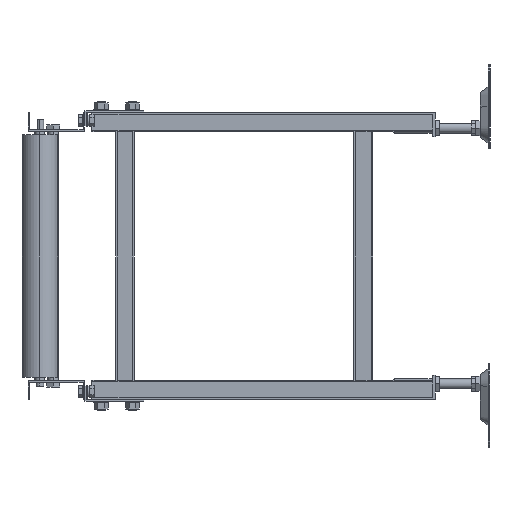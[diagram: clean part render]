
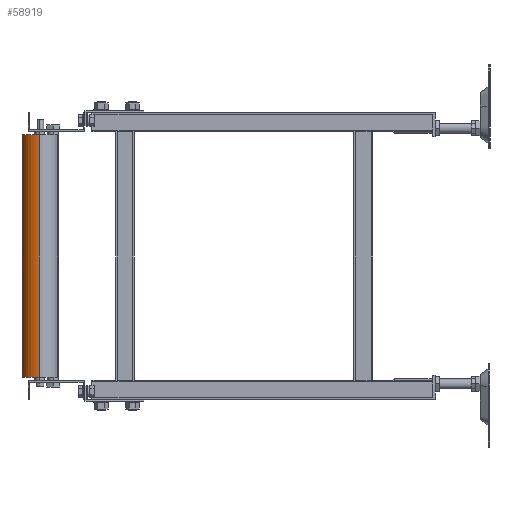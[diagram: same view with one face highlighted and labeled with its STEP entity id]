
A CAD part, left-side view. The second image highlights one B-rep face of the part: STEP entity #58919.
In plain terms, the highlighted cylindrical face has radius 28.6 mm (diameter 57.2 mm), a partial arc.
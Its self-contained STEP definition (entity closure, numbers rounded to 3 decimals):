
#13293 = CIRCLE ( 'NONE', #71779, 28.6 ) ;
#20382 = VECTOR ( 'NONE', #37685, 1000. ) ;
#23324 = EDGE_CURVE ( 'NONE', #99514, #31248, #60348, .T. ) ;
#24753 = AXIS2_PLACEMENT_3D ( 'NONE', #47216, #82370, #48365 ) ;
#28138 = CARTESIAN_POINT ( 'NONE',  ( -2918.4, -28.6, 194. ) ) ;
#29826 = CARTESIAN_POINT ( 'NONE',  ( -2975.6, -28.6, 194. ) ) ;
#31248 = VERTEX_POINT ( 'NONE', #90727 ) ;
#31354 = CARTESIAN_POINT ( 'NONE',  ( -2947., -28.6, -230.422 ) ) ;
#37685 = DIRECTION ( 'NONE',  ( 0., 0., -1. ) ) ;
#42986 = CARTESIAN_POINT ( 'NONE',  ( -2975.6, -28.6, -230.422 ) ) ;
#43106 = DIRECTION ( 'NONE',  ( -1., 0., 0. ) ) ;
#47216 = CARTESIAN_POINT ( 'NONE',  ( -2947., -28.6, -194. ) ) ;
#48365 = DIRECTION ( 'NONE',  ( -1., 0., 0. ) ) ;
#49685 = ORIENTED_EDGE ( 'NONE', *, *, #23324, .F. ) ;
#50896 = ORIENTED_EDGE ( 'NONE', *, *, #93696, .T. ) ;
#51420 = DIRECTION ( 'NONE',  ( 0., 0., -1. ) ) ;
#56078 = CYLINDRICAL_SURFACE ( 'NONE', #63873, 28.6 ) ;
#57413 = CARTESIAN_POINT ( 'NONE',  ( -2975.6, -28.6, -194. ) ) ;
#57800 = DIRECTION ( 'NONE',  ( -1., 0., 0. ) ) ;
#58919 = ADVANCED_FACE ( 'NONE', ( #86167 ), #56078, .T. ) ;
#59453 = LINE ( 'NONE', #42986, #103162 ) ;
#59775 = VERTEX_POINT ( 'NONE', #28138 ) ;
#60348 = CIRCLE ( 'NONE', #24753, 28.6 ) ;
#61353 = LINE ( 'NONE', #107286, #20382 ) ;
#63051 = ORIENTED_EDGE ( 'NONE', *, *, #82877, .F. ) ;
#63873 = AXIS2_PLACEMENT_3D ( 'NONE', #31354, #82633, #57800 ) ;
#67331 = EDGE_CURVE ( 'NONE', #94807, #59775, #13293, .T. ) ;
#71779 = AXIS2_PLACEMENT_3D ( 'NONE', #86681, #95474, #43106 ) ;
#82370 = DIRECTION ( 'NONE',  ( 0., 0., -1. ) ) ;
#82569 = EDGE_LOOP ( 'NONE', ( #98630, #50896, #49685, #63051 ) ) ;
#82633 = DIRECTION ( 'NONE',  ( 0., 0., -1. ) ) ;
#82877 = EDGE_CURVE ( 'NONE', #94807, #99514, #59453, .T. ) ;
#86167 = FACE_OUTER_BOUND ( 'NONE', #82569, .T. ) ;
#86681 = CARTESIAN_POINT ( 'NONE',  ( -2947., -28.6, 194. ) ) ;
#90727 = CARTESIAN_POINT ( 'NONE',  ( -2918.4, -28.6, -194. ) ) ;
#93696 = EDGE_CURVE ( 'NONE', #59775, #31248, #61353, .T. ) ;
#94807 = VERTEX_POINT ( 'NONE', #29826 ) ;
#95474 = DIRECTION ( 'NONE',  ( 0., 0., -1. ) ) ;
#98630 = ORIENTED_EDGE ( 'NONE', *, *, #67331, .T. ) ;
#99514 = VERTEX_POINT ( 'NONE', #57413 ) ;
#103162 = VECTOR ( 'NONE', #51420, 1000. ) ;
#107286 = CARTESIAN_POINT ( 'NONE',  ( -2918.4, -28.6, -230.422 ) ) ;
